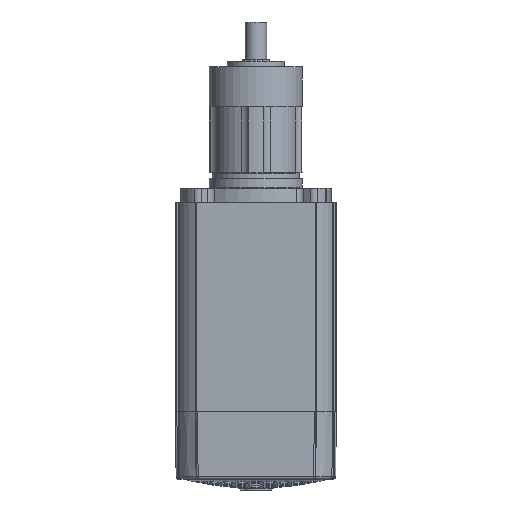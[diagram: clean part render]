
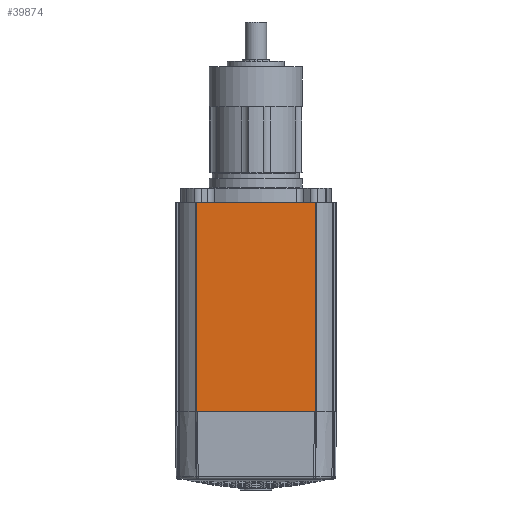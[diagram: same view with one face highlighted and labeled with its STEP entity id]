
A CAD part, front view. The second image highlights one B-rep face of the part: STEP entity #39874.
In plain terms, the highlighted planar face has unit normal (0, -1, 0).
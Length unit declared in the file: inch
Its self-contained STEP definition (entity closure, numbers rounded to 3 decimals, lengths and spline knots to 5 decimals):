
#1389 = CARTESIAN_POINT ( 'NONE',  ( 1.325, -1.7765, -4.759 ) ) ;
#1731 = LINE ( 'NONE', #31765, #23954 ) ;
#1969 = VECTOR ( 'NONE', #44692, 39.37008 ) ;
#3526 = ORIENTED_EDGE ( 'NONE', *, *, #38625, .F. ) ;
#3772 = CARTESIAN_POINT ( 'NONE',  ( -1.305, -1.7765, -4.605 ) ) ;
#4490 = DIRECTION ( 'NONE',  ( 0., 0., -1. ) ) ;
#5563 = CARTESIAN_POINT ( 'NONE',  ( -1.305, -1.7765, -4.759 ) ) ;
#5703 = PLANE ( 'NONE',  #50771 ) ;
#5883 = DIRECTION ( 'NONE',  ( 0., 0., -1. ) ) ;
#7654 = EDGE_CURVE ( 'NONE', #14508, #25838, #21518, .T. ) ;
#8336 = VECTOR ( 'NONE', #4490, 39.37008 ) ;
#10783 = FACE_OUTER_BOUND ( 'NONE', #37252, .T. ) ;
#14508 = VERTEX_POINT ( 'NONE', #38676 ) ;
#21518 = LINE ( 'NONE', #5563, #8336 ) ;
#22603 = CARTESIAN_POINT ( 'NONE',  ( 1.325, -1.7765, 0. ) ) ;
#22632 = CARTESIAN_POINT ( 'NONE',  ( 1.305, -1.7765, -4.759 ) ) ;
#22812 = EDGE_CURVE ( 'NONE', #14508, #39981, #32062, .T. ) ;
#23653 = ORIENTED_EDGE ( 'NONE', *, *, #25427, .T. ) ;
#23954 = VECTOR ( 'NONE', #36147, 39.37008 ) ;
#25427 = EDGE_CURVE ( 'NONE', #40649, #39981, #38596, .T. ) ;
#25838 = VERTEX_POINT ( 'NONE', #3772 ) ;
#28916 = CARTESIAN_POINT ( 'NONE',  ( 1.305, -1.7765, 0. ) ) ;
#30759 = CARTESIAN_POINT ( 'NONE',  ( 1.305, -1.7765, -4.605 ) ) ;
#31765 = CARTESIAN_POINT ( 'NONE',  ( 1.305, -1.7765, -4.605 ) ) ;
#32062 = LINE ( 'NONE', #22603, #54383 ) ;
#32372 = DIRECTION ( 'NONE',  ( 0., -1., 0. ) ) ;
#36064 = ORIENTED_EDGE ( 'NONE', *, *, #7654, .T. ) ;
#36147 = DIRECTION ( 'NONE',  ( -1., 0., 0. ) ) ;
#37252 = EDGE_LOOP ( 'NONE', ( #3526, #23653, #38082, #36064 ) ) ;
#38082 = ORIENTED_EDGE ( 'NONE', *, *, #22812, .F. ) ;
#38596 = LINE ( 'NONE', #22632, #1969 ) ;
#38625 = EDGE_CURVE ( 'NONE', #40649, #25838, #1731, .T. ) ;
#38676 = CARTESIAN_POINT ( 'NONE',  ( -1.305, -1.7765, 0. ) ) ;
#39874 = ADVANCED_FACE ( 'NONE', ( #10783 ), #5703, .T. ) ;
#39981 = VERTEX_POINT ( 'NONE', #28916 ) ;
#40649 = VERTEX_POINT ( 'NONE', #30759 ) ;
#44662 = DIRECTION ( 'NONE',  ( 1., 0., 0. ) ) ;
#44692 = DIRECTION ( 'NONE',  ( 0., 0., 1. ) ) ;
#50771 = AXIS2_PLACEMENT_3D ( 'NONE', #1389, #32372, #5883 ) ;
#54383 = VECTOR ( 'NONE', #44662, 39.37008 ) ;
